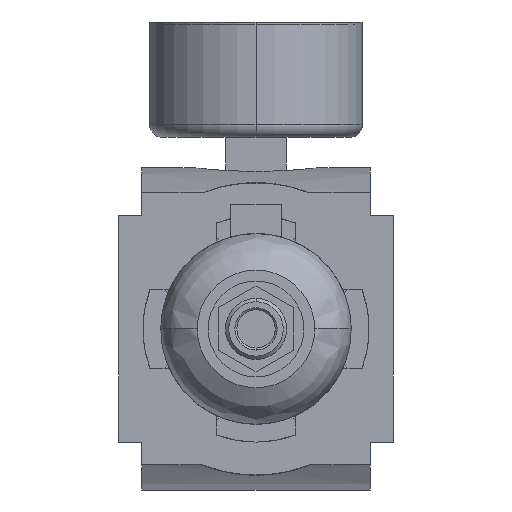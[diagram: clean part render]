
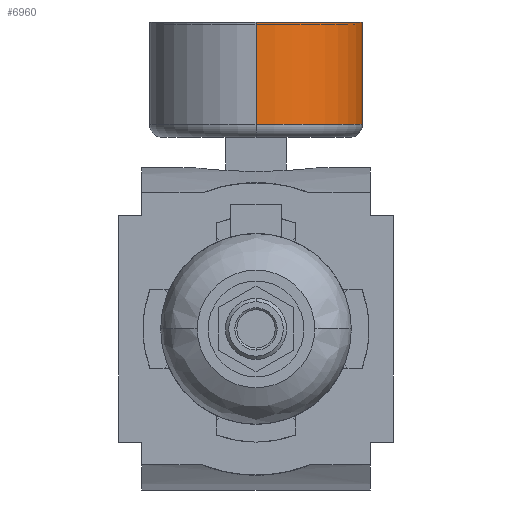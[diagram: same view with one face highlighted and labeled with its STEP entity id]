
A CAD part, front view. The second image highlights one B-rep face of the part: STEP entity #6960.
In plain terms, the highlighted cylindrical face has radius 24.5 mm (diameter 49 mm), a partial arc.
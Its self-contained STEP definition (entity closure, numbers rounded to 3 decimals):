
#6368=CARTESIAN_POINT('',(0.,0.,24.));
#6369=DIRECTION('',(0.,0.,-1.));
#6370=DIRECTION('',(0.,1.,0.));
#6371=AXIS2_PLACEMENT_3D('',#6368,#6369,#6370);
#6373=DIRECTION('',(0.,0.,1.));
#6374=VECTOR('',#6373,23.5);
#6375=CARTESIAN_POINT('',(0.,24.5,24.));
#6376=LINE('',#6375,#6374);
#6377=DIRECTION('',(0.,0.,1.));
#6378=VECTOR('',#6377,23.5);
#6379=CARTESIAN_POINT('',(0.,-24.5,24.));
#6380=LINE('',#6379,#6378);
#6391=CARTESIAN_POINT('',(0.,0.,47.5));
#6392=DIRECTION('',(0.,0.,-1.));
#6393=DIRECTION('',(0.,1.,0.));
#6394=AXIS2_PLACEMENT_3D('',#6391,#6392,#6393);
#6531=CARTESIAN_POINT('',(0.,24.5,24.));
#6533=VERTEX_POINT('',#6531);
#6534=CARTESIAN_POINT('',(0.,24.5,47.5));
#6535=VERTEX_POINT('',#6534);
#6555=CARTESIAN_POINT('',(0.,-24.5,24.));
#6557=VERTEX_POINT('',#6555);
#6558=CARTESIAN_POINT('',(0.,-24.5,47.5));
#6559=VERTEX_POINT('',#6558);
#6946=CARTESIAN_POINT('',(0.,0.,49.875));
#6947=DIRECTION('',(0.,0.,-1.));
#6948=DIRECTION('',(0.,-1.,0.));
#6949=AXIS2_PLACEMENT_3D('',#6946,#6947,#6948);
#6950=CYLINDRICAL_SURFACE('',#6949,24.5);
#6952=ORIENTED_EDGE('',*,*,#6951,.F.);
#6953=ORIENTED_EDGE('',*,*,#6941,.T.);
#6955=ORIENTED_EDGE('',*,*,#6954,.T.);
#6957=ORIENTED_EDGE('',*,*,#6956,.F.);
#6958=EDGE_LOOP('',(#6952,#6953,#6955,#6957));
#6959=FACE_OUTER_BOUND('',#6958,.F.);
#6960=ADVANCED_FACE('',(#6959),#6950,.T.);
#6372=CIRCLE('',#6371,24.5);
#6395=CIRCLE('',#6394,24.5);
#6941=EDGE_CURVE('',#6533,#6557,#6372,.T.);
#6951=EDGE_CURVE('',#6533,#6535,#6376,.T.);
#6954=EDGE_CURVE('',#6557,#6559,#6380,.T.);
#6956=EDGE_CURVE('',#6535,#6559,#6395,.T.);
